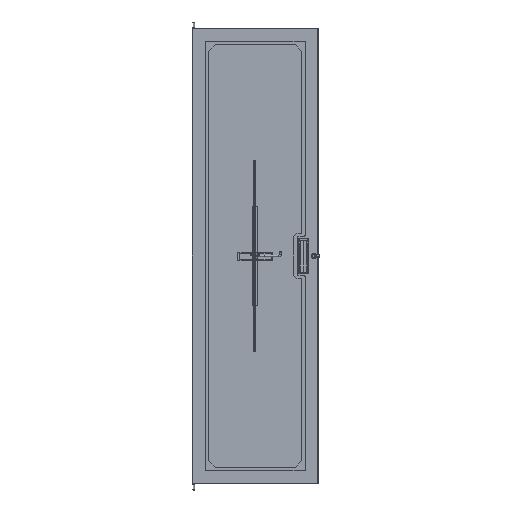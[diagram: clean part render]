
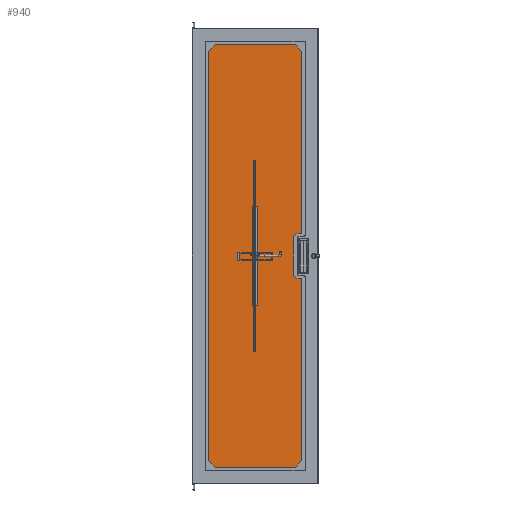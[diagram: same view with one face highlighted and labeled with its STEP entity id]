
A CAD part, front view. The second image highlights one B-rep face of the part: STEP entity #940.
In plain terms, the highlighted planar face has unit normal (0, -1, 0).
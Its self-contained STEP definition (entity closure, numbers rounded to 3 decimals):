
#940 = ADVANCED_FACE( '', ( #1964 ), #1965, .T. );
#1964 = FACE_OUTER_BOUND( '', #3223, .T. );
#1965 = PLANE( '', #3224 );
#3223 = EDGE_LOOP( '', ( #5496, #5497, #5498, #5499, #5500, #5501, #5502, #5503, #5504, #5505, #5506, #5507 ) );
#3224 = AXIS2_PLACEMENT_3D( '', #5508, #5509, #5510 );
#5496 = ORIENTED_EDGE( '', *, *, #6257, .T. );
#5497 = ORIENTED_EDGE( '', *, *, #6477, .T. );
#5498 = ORIENTED_EDGE( '', *, *, #6594, .T. );
#5499 = ORIENTED_EDGE( '', *, *, #6418, .T. );
#5500 = ORIENTED_EDGE( '', *, *, #6317, .T. );
#5501 = ORIENTED_EDGE( '', *, *, #6387, .T. );
#5502 = ORIENTED_EDGE( '', *, *, #6444, .T. );
#5503 = ORIENTED_EDGE( '', *, *, #6616, .T. );
#5504 = ORIENTED_EDGE( '', *, *, #6017, .T. );
#5505 = ORIENTED_EDGE( '', *, *, #6587, .T. );
#5506 = ORIENTED_EDGE( '', *, *, #6753, .T. );
#5507 = ORIENTED_EDGE( '', *, *, #6107, .T. );
#5508 = CARTESIAN_POINT( '', ( 187.325, 0., -81.756 ) );
#5509 = DIRECTION( '', ( 0., -1., 0. ) );
#5510 = DIRECTION( '', ( 0., 0., -1. ) );
#6017 = EDGE_CURVE( '', #7067, #7068, #7069, .T. );
#6107 = EDGE_CURVE( '', #7225, #7226, #7227, .T. );
#6257 = EDGE_CURVE( '', #7226, #7469, #7470, .T. );
#6317 = EDGE_CURVE( '', #7558, #7559, #7560, .T. );
#6387 = EDGE_CURVE( '', #7559, #7668, #7669, .T. );
#6418 = EDGE_CURVE( '', #7713, #7558, #7714, .T. );
#6444 = EDGE_CURVE( '', #7668, #7751, #7752, .T. );
#6477 = EDGE_CURVE( '', #7469, #7795, #7796, .T. );
#6587 = EDGE_CURVE( '', #7068, #7941, #7942, .T. );
#6594 = EDGE_CURVE( '', #7795, #7713, #7951, .T. );
#6616 = EDGE_CURVE( '', #7751, #7067, #7976, .T. );
#6753 = EDGE_CURVE( '', #7941, #7225, #8136, .T. );
#7067 = VERTEX_POINT( '', #8751 );
#7068 = VERTEX_POINT( '', #8752 );
#7069 = LINE( '', #8753, #8754 );
#7225 = VERTEX_POINT( '', #9036 );
#7226 = VERTEX_POINT( '', #9037 );
#7227 = LINE( '', #9038, #9039 );
#7469 = VERTEX_POINT( '', #9382 );
#7470 = LINE( '', #9383, #9384 );
#7558 = VERTEX_POINT( '', #9496 );
#7559 = VERTEX_POINT( '', #9497 );
#7560 = LINE( '', #9498, #9499 );
#7668 = VERTEX_POINT( '', #9642 );
#7669 = CIRCLE( '', #9643, 6.35 );
#7713 = VERTEX_POINT( '', #9722 );
#7714 = CIRCLE( '', #9723, 6.35 );
#7751 = VERTEX_POINT( '', #9774 );
#7752 = LINE( '', #9775, #9776 );
#7795 = VERTEX_POINT( '', #9870 );
#7796 = LINE( '', #9871, #9872 );
#7941 = VERTEX_POINT( '', #10060 );
#7942 = CIRCLE( '', #10061, 6.35 );
#7951 = LINE( '', #10071, #10072 );
#7976 = CIRCLE( '', #10107, 6.35 );
#8136 = LINE( '', #10324, #10325 );
#8751 = CARTESIAN_POINT( '', ( 169.862, 0., 75.406 ) );
#8752 = CARTESIAN_POINT( '', ( 187.325, 0., 75.406 ) );
#8753 = CARTESIAN_POINT( '', ( 187.325, 0., 75.406 ) );
#8754 = VECTOR( '', #10616, 1000. );
#9036 = CARTESIAN_POINT( '', ( 193.675, 0., 834.238 ) );
#9037 = CARTESIAN_POINT( '', ( -193.675, 0., 834.238 ) );
#9038 = CARTESIAN_POINT( '', ( 193.675, 0., 834.238 ) );
#9039 = VECTOR( '', #10716, 1000. );
#9382 = CARTESIAN_POINT( '', ( -193.675, 0., -834.238 ) );
#9383 = CARTESIAN_POINT( '', ( -193.675, 0., 834.238 ) );
#9384 = VECTOR( '', #10894, 1000. );
#9496 = CARTESIAN_POINT( '', ( 187.325, 0., -75.406 ) );
#9497 = CARTESIAN_POINT( '', ( 169.863, 0., -75.406 ) );
#9498 = CARTESIAN_POINT( '', ( 187.325, 0., -75.406 ) );
#9499 = VECTOR( '', #10967, 1000. );
#9642 = CARTESIAN_POINT( '', ( 163.513, 0., -69.056 ) );
#9643 = AXIS2_PLACEMENT_3D( '', #11051, #11052, #11053 );
#9722 = CARTESIAN_POINT( '', ( 193.675, 0., -81.756 ) );
#9723 = AXIS2_PLACEMENT_3D( '', #11086, #11087, #11088 );
#9774 = CARTESIAN_POINT( '', ( 163.513, 0., 69.056 ) );
#9775 = CARTESIAN_POINT( '', ( 163.513, 0., 69.056 ) );
#9776 = VECTOR( '', #11112, 1000. );
#9870 = CARTESIAN_POINT( '', ( 193.675, 0., -834.238 ) );
#9871 = CARTESIAN_POINT( '', ( -193.675, 0., -834.238 ) );
#9872 = VECTOR( '', #11145, 1000. );
#10060 = CARTESIAN_POINT( '', ( 193.675, 0., 81.756 ) );
#10061 = AXIS2_PLACEMENT_3D( '', #11270, #11271, #11272 );
#10071 = CARTESIAN_POINT( '', ( 193.675, 0., -834.238 ) );
#10072 = VECTOR( '', #11283, 1000. );
#10107 = AXIS2_PLACEMENT_3D( '', #11300, #11301, #11302 );
#10324 = CARTESIAN_POINT( '', ( 193.675, 0., 81.756 ) );
#10325 = VECTOR( '', #11409, 1000. );
#10616 = DIRECTION( '', ( 1., 0., 0. ) );
#10716 = DIRECTION( '', ( -1., 0., 0. ) );
#10894 = DIRECTION( '', ( 0., 0., -1. ) );
#10967 = DIRECTION( '', ( -1., 0., 0. ) );
#11051 = CARTESIAN_POINT( '', ( 169.863, 0., -69.056 ) );
#11052 = DIRECTION( '', ( 0., 1., 0. ) );
#11053 = DIRECTION( '', ( 1., 0., 0. ) );
#11086 = CARTESIAN_POINT( '', ( 187.325, 0., -81.756 ) );
#11087 = DIRECTION( '', ( 0., -1., 0. ) );
#11088 = DIRECTION( '', ( -1., 0., 0. ) );
#11112 = DIRECTION( '', ( 0., 0., 1. ) );
#11145 = DIRECTION( '', ( 1., 0., 0. ) );
#11270 = CARTESIAN_POINT( '', ( 187.325, 0., 81.756 ) );
#11271 = DIRECTION( '', ( 0., -1., 0. ) );
#11272 = DIRECTION( '', ( -1., 0., 0. ) );
#11283 = DIRECTION( '', ( 0., 0., 1. ) );
#11300 = CARTESIAN_POINT( '', ( 169.862, 0., 69.056 ) );
#11301 = DIRECTION( '', ( 0., 1., 0. ) );
#11302 = DIRECTION( '', ( 1., 0., 0. ) );
#11409 = DIRECTION( '', ( 0., 0., 1. ) );
